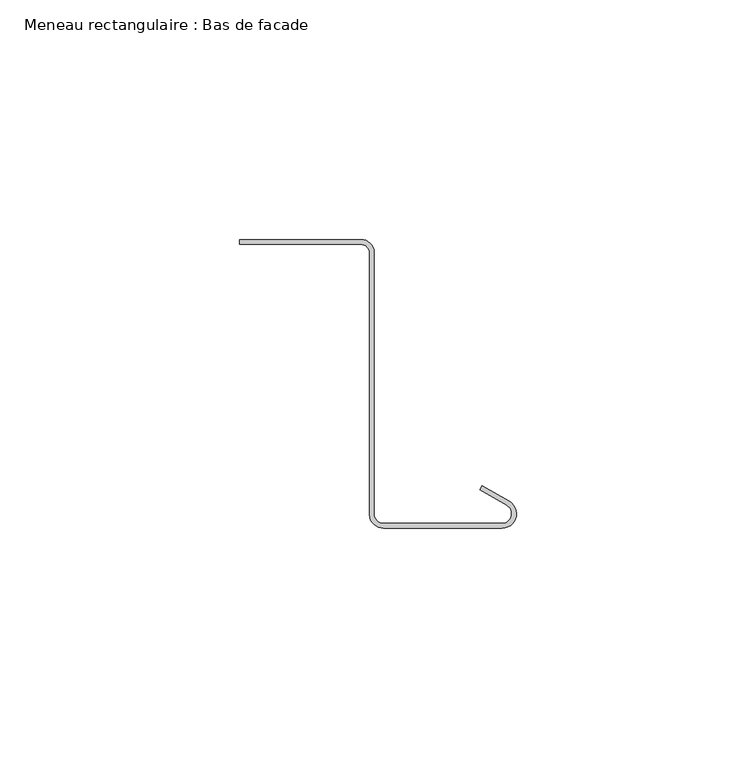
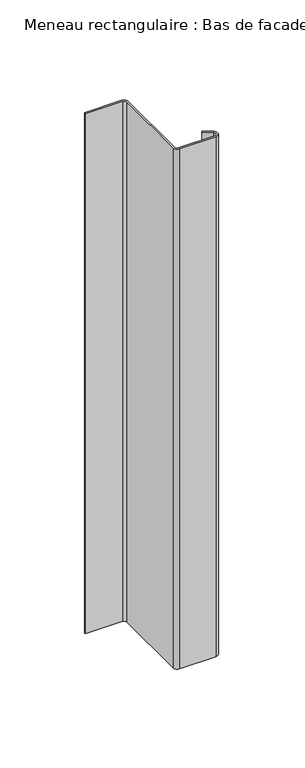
"""IFC4 building model written with IfcOpenShell, lengths in millimetres: member geometry, Meneau rectangulaire : Bas de facade."""

from ifc_helpers import new_model, si_unit, point, frame, frame_2d, origin, place, context, project, spatial, polyline, circle_curve, trimmed, segment, composite_curve, outline, extrude, source, transform, mapped, element, save


def meneau_rectangulaire_bas_de_facade_0b753ce1(model_context):
    return source(origin(), model_context, "Body", "SweptSolid", [
        extrude(outline(composite_curve([segment(trimmed(circle_curve(frame_2d((-32.4584179, 0.2088923)), 2.75), [point((-32.4584179, 2.9588923))], [point((-29.7143802, 0.3898824))], False, "CARTESIAN"), True, "CONTINUOUS"), segment(polyline([(-29.7143802, 0.3898824), (-29.7143802, -54.5495817)]), True, "CONTINUOUS"), segment(trimmed(circle_curve(frame_2d((-27.735368, -54.2605998)), 2.0), [point((-29.7143802, -54.5495817))], [point((-27.735368, -56.2605998))], True, "CARTESIAN"), True, "CONTINUOUS"), segment(polyline([(-27.735368, -56.2605998), (-3.0, -56.2605998)]), True, "CONTINUOUS"), segment(trimmed(circle_curve(frame_2d((-3.0, -54.2605998)), 2.0), [point((-3.0, -56.2605998))], [point((-2.0, -52.528549))], True, "CARTESIAN"), True, "CONTINUOUS"), segment(polyline([(-2.0, -52.528549), (-7.6638061, -49.258549), (-7.1638061, -48.3925235), (-1.5, -51.6625235)]), True, "CONTINUOUS"), segment(trimmed(circle_curve(frame_2d((-3.0, -54.2605998)), 3.0), [point((-1.5, -51.6625235))], [point((-3.0, -57.2605998))], False, "CARTESIAN"), True, "CONTINUOUS"), segment(polyline([(-3.0, -57.2605998), (-27.735368, -57.2605998)]), True, "CONTINUOUS"), segment(trimmed(circle_curve(frame_2d((-27.735368, -54.2605998)), 3.0), [point((-27.735368, -57.2605998))], [point((-30.7239521, -54.522067))], False, "CARTESIAN"), True, "CONTINUOUS"), segment(polyline([(-30.7239521, -54.522067), (-30.7239521, 0.4415475)]), True, "CONTINUOUS"), segment(trimmed(circle_curve(frame_2d((-32.4584179, 0.2088923)), 1.75), [point((-30.7239521, 0.4415475))], [point((-32.4584179, 1.9588923))], True, "CARTESIAN"), True, "CONTINUOUS"), segment(polyline([(-32.4584179, 1.9588923), (-57.8548383, 1.9588923), (-57.8548383, 2.9588923), (-32.4584179, 2.9588923)]), True, "CONTINUOUS")], self_intersect=False)), frame((0.0, 0.0, -374.9588923), z_axis=(0.0, 0.0, 1.0), x_axis=(1.0, 0.0, 0.0)), (0.0, 0.0, 1.0), 374.9588923),
    ])


if __name__ == "__main__":
    model = new_model("IFC4")
    model_context = context("Model", 3, world=origin())
    ifc_project = project(units=[si_unit("LENGTHUNIT", "METRE", prefix="MILLI")], contexts=[model_context])
    site = spatial("IfcSite", under=ifc_project)
    building = spatial("IfcBuilding", under=site)
    placement = place(None, origin())
    meneau_rectangulaire_bas_de_facade_shape = meneau_rectangulaire_bas_de_facade_0b753ce1(model_context)
    element("IfcMember", 1, ObjectType="Meneau rectangulaire : Bas de facade", at=placement, inside=building, context=model_context, shape_type="MappedRepresentation", body=[
        mapped(meneau_rectangulaire_bas_de_facade_shape, transform((0.0, 0.0, 0.0), x_axis=(1.0, 0.0, 0.0), y_axis=(0.0, 1.0, 0.0), z_axis=(0.0, 0.0, 1.0))),
    ])
    save(model, "model.ifc")
